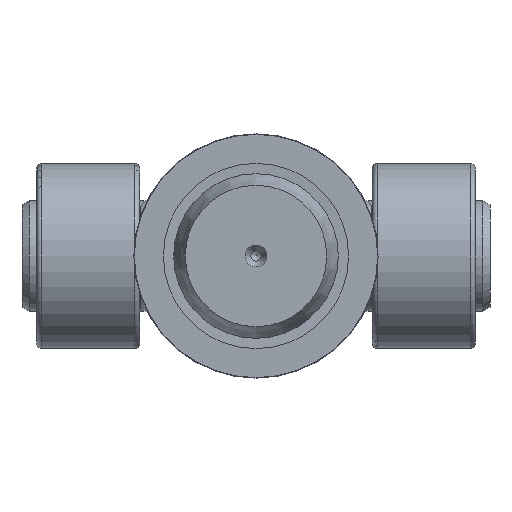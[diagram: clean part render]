
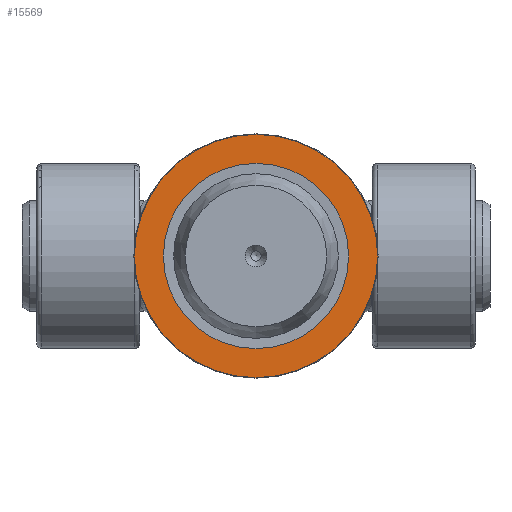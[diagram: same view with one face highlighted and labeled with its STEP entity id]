
A CAD part, front view. The second image highlights one B-rep face of the part: STEP entity #15569.
In plain terms, the highlighted planar face has unit normal (0, -1, 0) as drawn and (0, 0, -1) by its records, which use the part's own axes.
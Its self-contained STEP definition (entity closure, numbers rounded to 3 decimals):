
#4019=PLANE('',#16496);
#4218=FACE_BOUND('',#6050,.T.);
#5074=FACE_OUTER_BOUND('',#6049,.T.);
#6049=EDGE_LOOP('',(#14595));
#6050=EDGE_LOOP('',(#14596));
#6300=CIRCLE('',#16494,47.3);
#6301=CIRCLE('',#16497,36.);
#7827=VERTEX_POINT('',#31692);
#7828=VERTEX_POINT('',#31696);
#10085=EDGE_CURVE('',#7827,#7827,#6300,.T.);
#10086=EDGE_CURVE('',#7828,#7828,#6301,.T.);
#14595=ORIENTED_EDGE('',*,*,#10085,.F.);
#14596=ORIENTED_EDGE('',*,*,#10086,.T.);
#15569=ADVANCED_FACE('',(#5074,#4218),#4019,.F.);
#16494=AXIS2_PLACEMENT_3D('',#31693,#19460,#19461);
#16496=AXIS2_PLACEMENT_3D('',#31695,#19464,#19465);
#16497=AXIS2_PLACEMENT_3D('',#31697,#19466,#19467);
#19460=DIRECTION('center_axis',(0.,0.,1.));
#19461=DIRECTION('ref_axis',(-1.,0.,0.));
#19464=DIRECTION('center_axis',(0.,0.,1.));
#19465=DIRECTION('ref_axis',(1.,0.,0.));
#19466=DIRECTION('center_axis',(0.,0.,1.));
#19467=DIRECTION('ref_axis',(0.,-1.,0.));
#31692=CARTESIAN_POINT('',(47.3,0.,0.));
#31693=CARTESIAN_POINT('Origin',(0.,0.,0.));
#31695=CARTESIAN_POINT('Origin',(0.,0.,0.));
#31696=CARTESIAN_POINT('',(0.,-36.,0.));
#31697=CARTESIAN_POINT('Origin',(0.,0.,0.));
